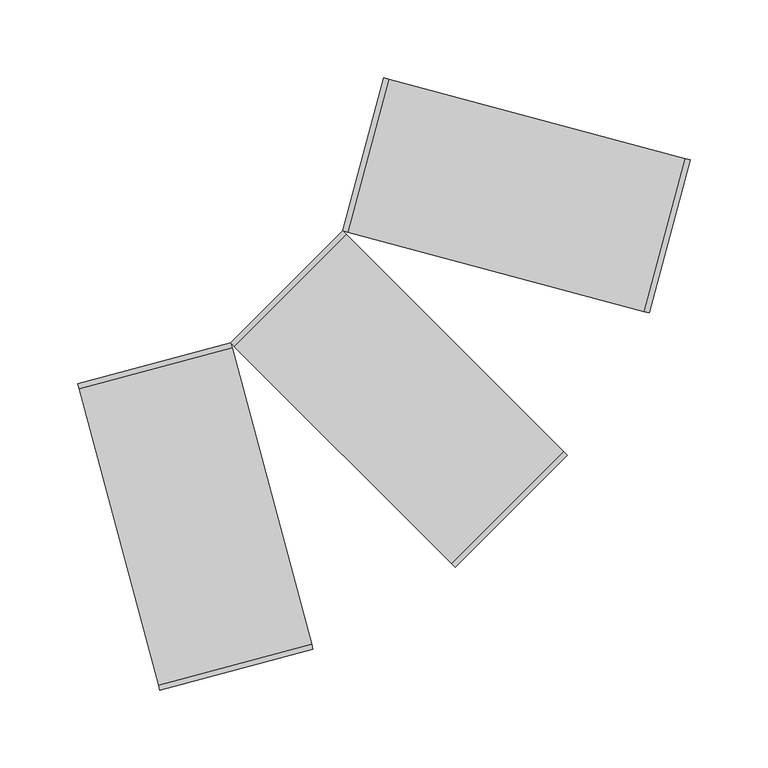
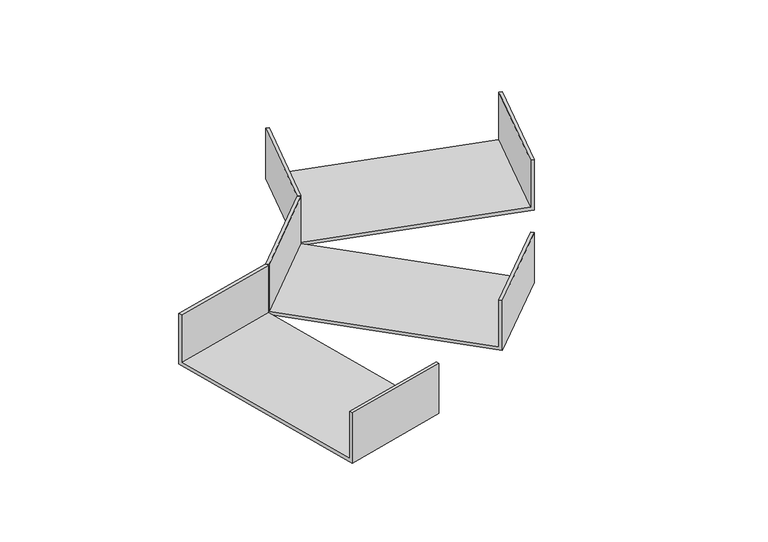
"""IFC4 building model written with IfcOpenShell, lengths in millimetres: cable carrier fitting geometry, Bend-Horizontal-Cablofil-Wire_Mesh_Cable_Tray : Faslock."""

from ifc_helpers import new_model, si_unit, frame, origin, place, context, project, spatial, polyline, outline, extrude, source, transform, mapped, element, save


def cable_carrier_fitting_ab9d27d4(model_context):
    return source(origin(), model_context, "Body", "SweptSolid", [
        extrude(outline(polyline([(-50.8, 0.0), (0.0, 0.0), (0.0, -203.2000001), (-50.8, -203.2000001), (-50.8, -200.0250001), (-3.175, -200.0250001), (-3.175, -3.175), (-50.8, -3.175), (-50.8, 0.0)])), frame((-199.738064, 127.896015, -25.4), z_axis=(0.7071067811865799, 0.7071067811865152, 0.0), x_axis=(0.0, 0.0, -1.0)), (0.0, 0.0, 1.0), 101.6),
        extrude(outline(polyline([(-50.8, 0.0), (0.0, 0.0), (0.0, -203.2), (-50.8, -203.2), (-50.8, -200.025), (-3.175, -200.025), (-3.175, -3.175), (-50.8, -3.175), (-50.8, 0.0)])), frame((-297.8761279, 101.6, -25.4), z_axis=(0.9659258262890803, 0.25881904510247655, 0.0), x_axis=(0.0, 0.0, -1.0)), (0.0, 0.0, 1.0), 101.6),
        extrude(outline(polyline([(-50.8, 0.0), (0.0, 0.0), (0.0, -203.2), (-50.8, -203.2), (-50.8, -200.025), (-3.175, -200.025), (-3.175, -3.175), (-50.8, -3.175), (-50.8, 0.0)])), frame((-127.896015, 199.738064, -25.4), z_axis=(0.25881904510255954, 0.965925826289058, 0.0), x_axis=(0.0, 0.0, -1.0)), (0.0, 0.0, 1.0), 101.6),
    ])


if __name__ == "__main__":
    model = new_model("IFC4")
    model_context = context("Model", 3, world=origin())
    ifc_project = project(units=[si_unit("LENGTHUNIT", "METRE", prefix="MILLI")], contexts=[model_context])
    site = spatial("IfcSite", under=ifc_project)
    building = spatial("IfcBuilding", under=site)
    placement = place(None, origin())
    cable_carrier_fitting_shape = cable_carrier_fitting_ab9d27d4(model_context)
    element("IfcCableCarrierFitting", 1, ObjectType="Bend-Horizontal-Cablofil-Wire_Mesh_Cable_Tray : Faslock", at=placement, inside=building, context=model_context, shape_type="MappedRepresentation", body=[
        mapped(cable_carrier_fitting_shape, transform((0.0, 0.0, 0.0), x_axis=(1.0, 0.0, 0.0), y_axis=(0.0, 1.0, 0.0), z_axis=(0.0, 0.0, 1.0))),
    ])
    save(model, "model.ifc")
